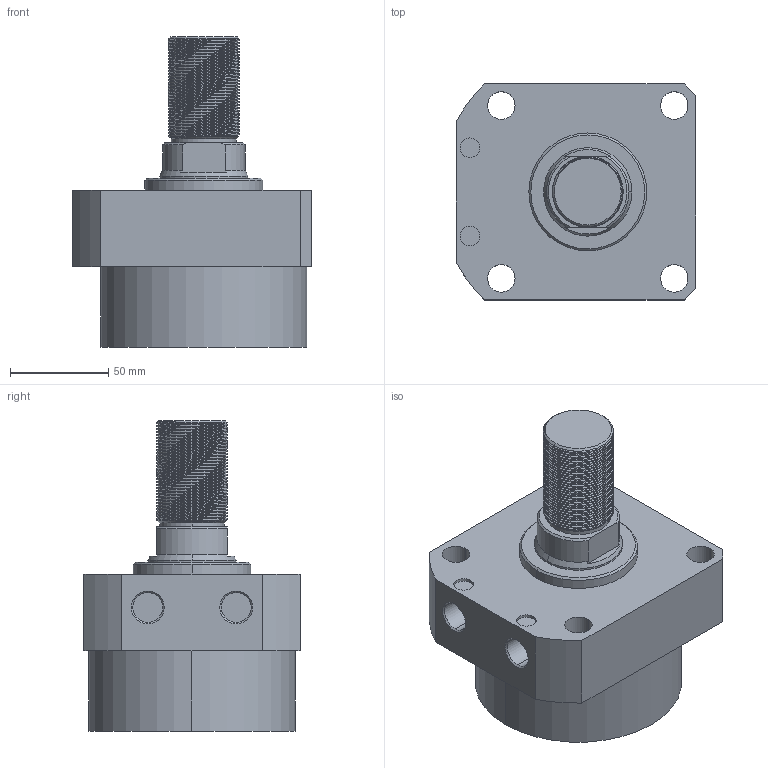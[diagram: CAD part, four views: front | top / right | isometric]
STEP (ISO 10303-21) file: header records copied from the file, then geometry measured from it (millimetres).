
FILE_DESCRIPTION (( 'STEP AP214' ), '1' );
FILE_NAME ('CLLR-105CT-020.STEP', '2020-01-09T07:17:11', ( 'Windows' ), ( 'Microsoft' ), 'SwSTEP 2.0', 'SolidWorks 2015', '' );
FILE_SCHEMA (( 'AUTOMOTIVE_DESIGN' ));
Length unit declared in the file: millimetre
Products named in the file (1): CLLR-105CT-020
Bounding box: 122 x 110 x 158 mm (x, y, z)
Volume: 928241.5 mm3; surface area: 77490.8 mm2
Topology: 1 solids, 1 shells, 135 faces, 362 edges, 237 vertices
Faces by surface type: cylinder 97, plane 20, cone 16, bspline 2
Entity records: 7879 total; most frequent: CARTESIAN_POINT 4820, ORIENTED_EDGE 724, DIRECTION 556, EDGE_CURVE 362, VERTEX_POINT 237, AXIS2_PLACEMENT_3D 211, EDGE_LOOP 151, FACE_OUTER_BOUND 135
